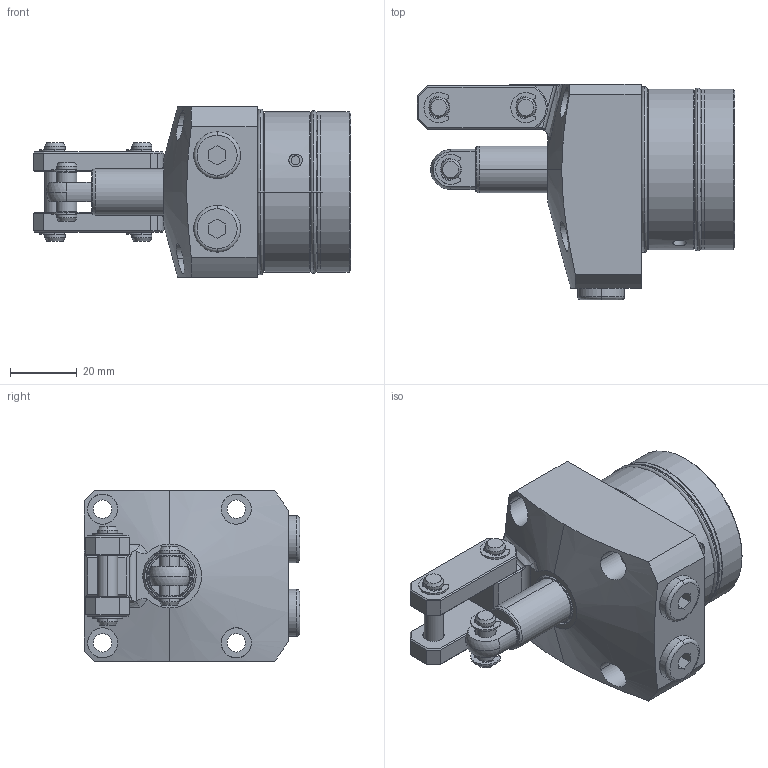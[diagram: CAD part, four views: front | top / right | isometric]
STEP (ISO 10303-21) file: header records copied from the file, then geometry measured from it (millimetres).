
FILE_DESCRIPTION(/* description */ (''),/* implementation_level */ '2;1');
FILE_NAME(/* name */ 'KTPW48-FJ.stp',/* time_stamp */ '2022-11-20T07:53:42+08:00',/* author */ (''),/* organization */ (''),/* preprocessor_version */ 'ST-DEVELOPER v16.7',/* originating_system */ 'SIEMENS PLM Software NX 12.0',/* authorisation */ '');
FILE_SCHEMA (('AP203_CONFIGURATION_CONTROLLED_3D_DESIGN_OF_MECHANICAL_PARTS_AND_ASSEMBLIES_MIM_LF { 1 0 10303 403 2 1 2}'));
Length unit declared in the file: millimetre
Products named in the file (10): KTPW48-FJ-02; KTPW48-FJ-06; KTPW48-FJ-04; KTPW48-FJ-09; KTPW48-FJ-08; KTPW48-FJ-01; KTPW48-FJ-03; KTPW48-FJ-05; KTPW48-FJ-07; LKW0481-CCJ_step
Assembly tree (18 placements, depth 2):
  LKW0481-CCJ_step
    KTPW48-FJ-07  x6
    KTPW48-FJ-05  x2
    KTPW48-FJ-03
    KTPW48-FJ-01
    KTPW48-FJ-08  x2
    KTPW48-FJ-09  x2
    KTPW48-FJ-04  x2
    KTPW48-FJ-06
    KTPW48-FJ-02
Bounding box: 95 x 64.5 x 51 mm (x, y, z)
Volume: 136390.7 mm3; surface area: 34655.7 mm2
Topology: 20 solids, 20 shells, 635 faces, 1475 edges, 913 vertices
Faces by surface type: cylinder 251, plane 190, torus 106, cone 76, bspline 10, sphere 2
Full cylindrical faces by diameter (mm): 48 x1
Entity records: 12194 total; most frequent: CARTESIAN_POINT 2719, DIRECTION 1856, ORIENTED_EDGE 1560, EDGE_CURVE 780, AXIS2_PLACEMENT_3D 779, VERTEX_POINT 474, CIRCLE 415, EDGE_LOOP 404
